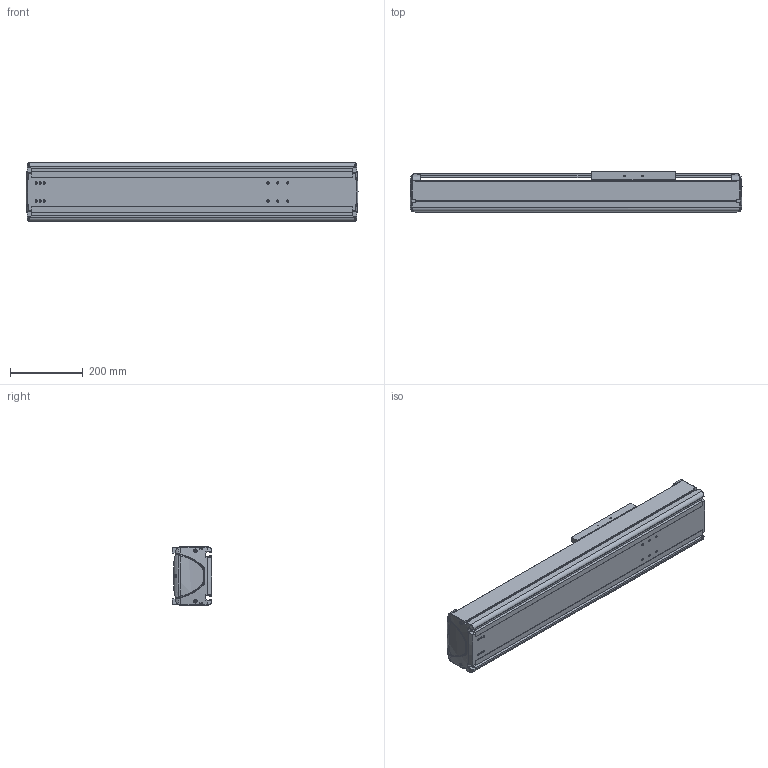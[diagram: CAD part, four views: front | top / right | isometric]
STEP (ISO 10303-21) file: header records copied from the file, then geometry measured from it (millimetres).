
FILE_DESCRIPTION((''),'2;1');
FILE_NAME('BE50G-ST-L_B-45_IGS_PRT','2017-06-18T',(' '),(''),'PRO/ENGINEER BY PARAMETRIC TECHNOLOGY CORPORATION, 2015030','PRO/ENGINEER BY PARAMETRIC TECHNOLOGY CORPORATION, 2015030','');
FILE_SCHEMA(('CONFIG_CONTROL_DESIGN'));
Length unit declared in the file: millimetre
Products named in the file (1): BE50G-ST-L_B-45_IGS_PRT
Bounding box: 914.98 x 110 x 160 mm (x, y, z)
Volume: 4405854.1 mm3; surface area: 1462638.1 mm2
Topology: 2 solids, 75 shells, 1568 faces, 4124 edges, 2633 vertices
Faces by surface type: cylinder 662, plane 613, bspline 102, torus 87, cone 64, sphere 40
Entity records: 53709 total; most frequent: CARTESIAN_POINT 15396, ORIENTED_EDGE 7892, DIRECTION 7866, EDGE_CURVE 4092, AXIS2_PLACEMENT_3D 2920, VERTEX_POINT 2631, VECTOR 2026, LINE 2026
